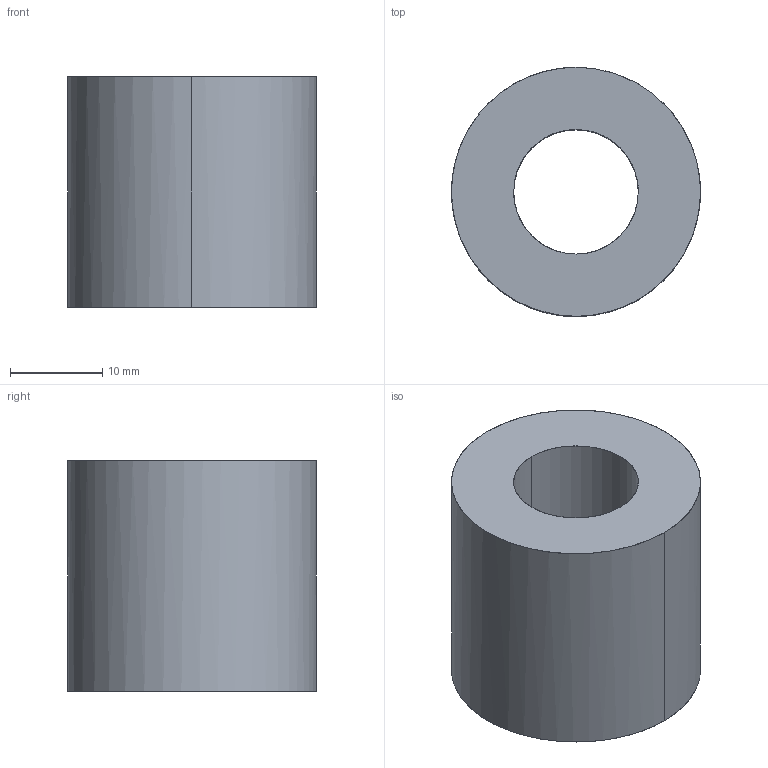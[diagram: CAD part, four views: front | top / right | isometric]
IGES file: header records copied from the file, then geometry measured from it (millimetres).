
Global section: file name: E:\UnigraphicsGraphicData\MISUMI_PRESS-PARTS\IGES\3d_swh27-25_00718_r00.igs; native system: NX V5.0; preprocessor: UGS NX IGES V5.0; author: MISUMI; date: 20110105.163257; units: millimetre
Bounding box: 27 x 27 x 25 mm (x, y, z)
Surface area: 4039 mm2 (no closed solid volume)
Topology: 0 solids, 0 shells, 6 faces, 64 edges, 64 vertices
Faces by surface type: bspline 6
